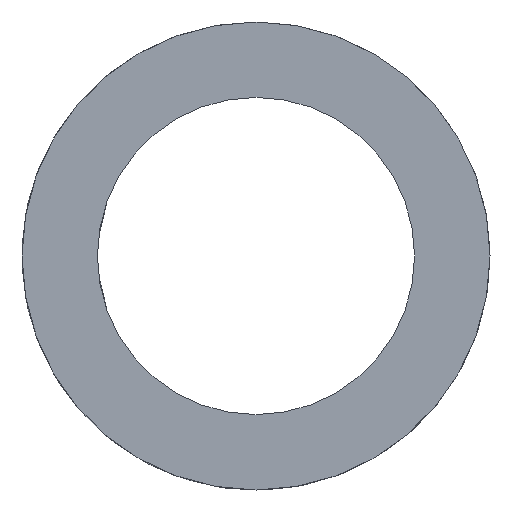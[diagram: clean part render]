
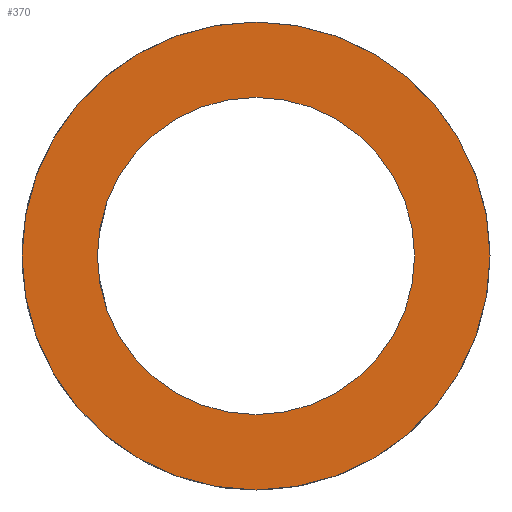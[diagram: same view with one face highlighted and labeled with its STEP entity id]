
A CAD part, left-side view. The second image highlights one B-rep face of the part: STEP entity #370.
In plain terms, the highlighted planar face has unit normal (-1, 0, 0).
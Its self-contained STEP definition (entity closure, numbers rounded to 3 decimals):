
#320 = VERTEX_POINT('',#321);
#321 = CARTESIAN_POINT('',(0.,0.,9.));
#331 = EDGE_CURVE('',#320,#320,#332,.T.);
#332 = CIRCLE('',#333,9.);
#333 = AXIS2_PLACEMENT_3D('',#334,#335,#336);
#334 = CARTESIAN_POINT('',(0.,0.,0.));
#335 = DIRECTION('',(1.,0.,0.));
#336 = DIRECTION('',(-0.,0.,1.));
#347 = VERTEX_POINT('',#348);
#348 = CARTESIAN_POINT('',(0.,0.,6.1));
#356 = EDGE_CURVE('',#347,#347,#357,.T.);
#357 = CIRCLE('',#358,6.1);
#358 = AXIS2_PLACEMENT_3D('',#359,#360,#361);
#359 = CARTESIAN_POINT('',(0.,0.,0.));
#360 = DIRECTION('',(1.,0.,0.));
#361 = DIRECTION('',(-0.,0.,1.));
#370 = ADVANCED_FACE('',(#371,#374),#377,.F.);
#371 = FACE_BOUND('',#372,.F.);
#372 = EDGE_LOOP('',(#373));
#373 = ORIENTED_EDGE('',*,*,#331,.T.);
#374 = FACE_BOUND('',#375,.F.);
#375 = EDGE_LOOP('',(#376));
#376 = ORIENTED_EDGE('',*,*,#356,.F.);
#377 = PLANE('',#378);
#378 = AXIS2_PLACEMENT_3D('',#379,#380,#381);
#379 = CARTESIAN_POINT('',(0.,0.,0.));
#380 = DIRECTION('',(1.,0.,0.));
#381 = DIRECTION('',(-0.,0.,1.));
